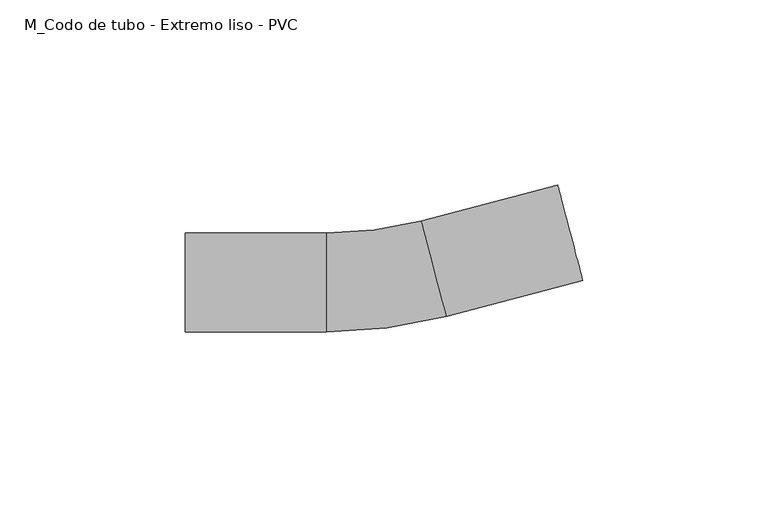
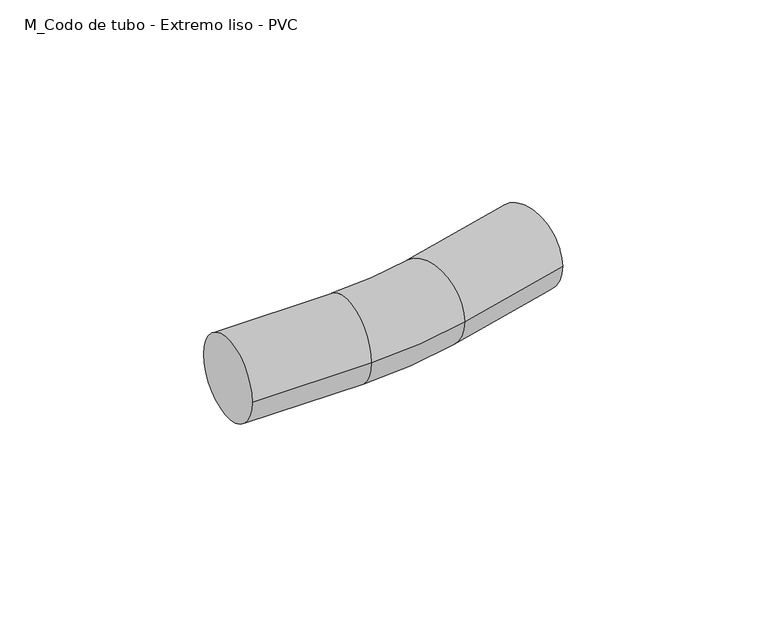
"""IFC4 building model written with IfcOpenShell, lengths in millimetres: cable carrier fitting geometry, M_Codo de tubo - Extremo liso - PVC : CODO ILUMINACION."""

from ifc_helpers import new_model, si_unit, point, frame, origin, place, context, project, spatial, circle_curve, ellipse_curve, trimmed, source, transform, mapped, element, save
from ifc_brep_helpers import plane_surface, cylinder_surface, revolved_surface, advanced_brep


def m_codo_de_tubo_extremo_liso_pvc_e41270cf(model_context):
    return source(origin(), model_context, "Body", "AdvancedBrep", [
        advanced_brep(
        [(-52.788533, -13.335, 0.0), (-52.788533, 13.335, 0.0), (-14.688533, -13.335, 0.0), (-14.688533, 13.335, 0.0), (10.8396249, 16.6155878, 0.0), (17.5829118, -9.1878418, 0.0), (54.4449542, 0.4454253, 0.0), (47.7016672, 26.2488549, 0.0)],
        [
            (0, 1, circle_curve(frame((-52.788533, 0.0, 0.0), z_axis=(-1.0, 0.0, 0.0), x_axis=(0.0, 1.0, 0.0)), 13.335)),
            (1, 0, circle_curve(frame((-52.788533, 0.0, 0.0), z_axis=(-1.0, 0.0, 0.0), x_axis=(0.0, 1.0, 0.0)), 13.335)),
            (0, 2),
            (2, 3, circle_curve(frame((-14.688533, 0.0, 0.0), z_axis=(-1.0, 0.0, 0.0), x_axis=(0.0, 1.0, 0.0)), 13.335)),
            (3, 1),
            (3, 2, circle_curve(frame((-14.688533, 0.0, 0.0), z_axis=(-1.0, 0.0, 0.0), x_axis=(0.0, 1.0, 0.0)), 13.335)),
            (4, 3, circle_curve(frame((-14.688533, 114.3, 0.0), z_axis=(0.0, 0.0, -1.0), x_axis=(0.0, -1.0, 0.0)), 100.965)),
            (2, 5, circle_curve(frame((-14.688533, 114.3, 0.0), z_axis=(0.0, 0.0, 1.0), x_axis=(0.0, -1.0, 0.0)), 127.635)),
            (5, 4, circle_curve(frame((14.2112684, 3.713873, 0.0), z_axis=(-0.9675076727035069, -0.25284165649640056, 0.0), x_axis=(-0.25284165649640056, 0.9675076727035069, 0.0)), 13.335)),
            (4, 5, circle_curve(frame((14.2112684, 3.713873, 0.0), z_axis=(-0.9675076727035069, -0.25284165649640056, 0.0), x_axis=(-0.25284165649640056, 0.9675076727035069, 0.0)), 13.335)),
            (6, 7, circle_curve(frame((51.0733107, 13.3471401, 0.0), z_axis=(0.9675076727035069, 0.25284165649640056, 0.0), x_axis=(-0.25284165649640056, 0.9675076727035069, 0.0)), 13.335)),
            (7, 6, circle_curve(frame((51.0733107, 13.3471401, 0.0), z_axis=(0.9675076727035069, 0.25284165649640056, 0.0), x_axis=(-0.25284165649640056, 0.9675076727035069, 0.0)), 13.335)),
            (5, 6),
            (7, 4),
        ],
        [
            plane_surface(frame((-52.788533, 0.0, 0.0), z_axis=(-1.0, 0.0, 0.0), x_axis=(0.0, 0.0, 1.0))),
            cylinder_surface(frame((-52.788533, 0.0, 0.0), z_axis=(-1.0, 0.0, 0.0), x_axis=(0.0, 1.0, 0.0)), 13.335),
            revolved_surface(trimmed(ellipse_curve(frame((-14.688533, 0.0, 0.0), z_axis=(-1.0, 0.0, 0.0), x_axis=(0.0, 1.0, 0.0)), 13.335, 13.335), [point((-14.688533, -13.335, 0.0))], [point((-14.688533, 13.335, 0.0))], True, "CARTESIAN"), (-14.688533, 114.3, 0.0), (0.0, 0.0, 1.0)),
            revolved_surface(trimmed(ellipse_curve(frame((-14.688533, 0.0, 0.0), z_axis=(-1.0, 0.0, 0.0), x_axis=(0.0, 1.0, 0.0)), 13.335, 13.335), [point((-14.688533, 13.335, 0.0))], [point((-14.688533, -13.335, 0.0))], True, "CARTESIAN"), (-14.688533, 114.3, 0.0), (0.0, 0.0, 1.0)),
            plane_surface(frame((51.0733107, 13.3471401, 0.0), z_axis=(0.9675076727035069, 0.25284165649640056, 0.0), x_axis=(0.0, 0.0, 1.0))),
            cylinder_surface(frame((14.2112684, 3.713873, 0.0), z_axis=(-0.9675076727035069, -0.25284165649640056, 0.0), x_axis=(-0.25284165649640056, 0.9675076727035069, 0.0)), 13.335),
        ],
        [
            (0, [[1, 2]]),
            (1, [[-1, 3, 4, 5]]),
            (1, [[-2, -5, 6, -3]]),
            (2, [[7, -4, 8, 9]]),
            (3, [[-8, -6, -7, 10]]),
            (4, [[11, 12]]),
            (5, [[-9, 13, -12, 14]]),
            (5, [[-10, -14, -11, -13]]),
        ],
    ),
    ])


if __name__ == "__main__":
    model = new_model("IFC4")
    model_context = context("Model", 3, world=origin())
    ifc_project = project(units=[si_unit("LENGTHUNIT", "METRE", prefix="MILLI")], contexts=[model_context])
    site = spatial("IfcSite", under=ifc_project)
    building = spatial("IfcBuilding", under=site)
    placement = place(None, origin())
    m_codo_de_tubo_extremo_liso_pvc_shape = m_codo_de_tubo_extremo_liso_pvc_e41270cf(model_context)
    element("IfcCableCarrierFitting", 1, ObjectType="M_Codo de tubo - Extremo liso - PVC : CODO ILUMINACION", at=placement, inside=building, context=model_context, shape_type="MappedRepresentation", body=[
        mapped(m_codo_de_tubo_extremo_liso_pvc_shape, transform((0.0, 0.0, 0.0), x_axis=(1.0, 0.0, 0.0), y_axis=(0.0, 1.0, 0.0), z_axis=(0.0, 0.0, 1.0))),
    ])
    save(model, "model.ifc")
